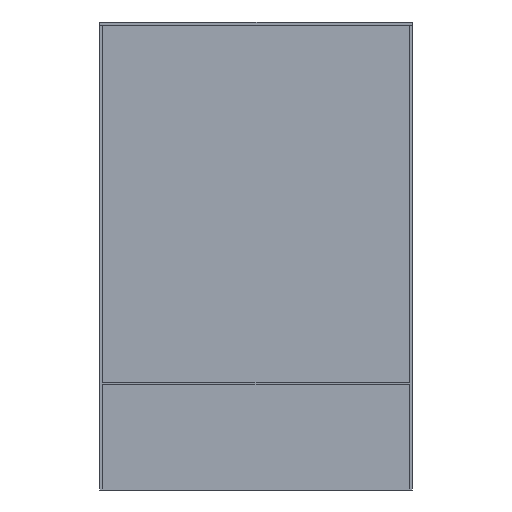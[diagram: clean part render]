
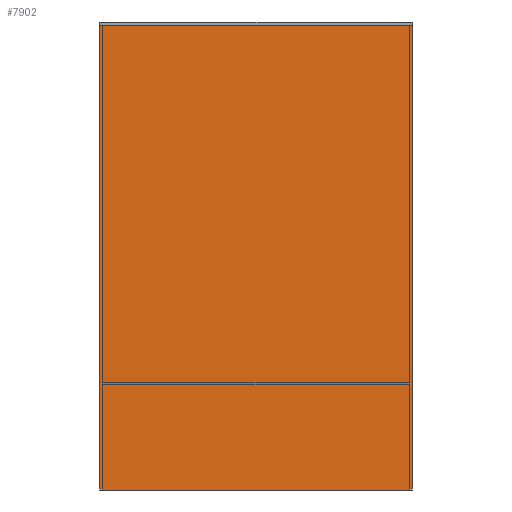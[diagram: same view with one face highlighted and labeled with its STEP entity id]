
A CAD part, left-side view. The second image highlights one B-rep face of the part: STEP entity #7902.
In plain terms, the highlighted planar face has unit normal (-1, 0, 0).
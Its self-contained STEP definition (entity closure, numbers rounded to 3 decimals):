
#356=FACE_OUTER_BOUND('',#825,.T.);
#825=EDGE_LOOP('',(#5698,#5699,#5700,#5701));
#1266=LINE('',#11813,#2148);
#1276=LINE('',#11832,#2158);
#1277=LINE('',#11835,#2159);
#1291=LINE('',#11860,#2173);
#2148=VECTOR('',#9552,304.8);
#2158=VECTOR('',#9564,304.8);
#2159=VECTOR('',#9567,304.8);
#2173=VECTOR('',#9593,304.8);
#3380=VERTEX_POINT('',#11811);
#3381=VERTEX_POINT('',#11812);
#3389=VERTEX_POINT('',#11830);
#3390=VERTEX_POINT('',#11834);
#4242=EDGE_CURVE('',#3380,#3381,#1266,.T.);
#4252=EDGE_CURVE('',#3381,#3389,#1276,.T.);
#4253=EDGE_CURVE('',#3390,#3380,#1277,.T.);
#4267=EDGE_CURVE('',#3390,#3389,#1291,.T.);
#5698=ORIENTED_EDGE('',*,*,#4242,.T.);
#5699=ORIENTED_EDGE('',*,*,#4252,.T.);
#5700=ORIENTED_EDGE('',*,*,#4267,.F.);
#5701=ORIENTED_EDGE('',*,*,#4253,.T.);
#7554=PLANE('',#8487);
#7902=ADVANCED_FACE('',(#356),#7554,.T.);
#8487=AXIS2_PLACEMENT_3D('',#11859,#9591,#9592);
#9552=DIRECTION('',(0.,1.,0.));
#9564=DIRECTION('',(0.,0.,-1.));
#9567=DIRECTION('',(0.,0.,1.));
#9591=DIRECTION('center_axis',(-1.,0.,0.));
#9592=DIRECTION('ref_axis',(0.,0.,-1.));
#9593=DIRECTION('',(0.,1.,0.));
#11811=CARTESIAN_POINT('',(-153.2,-53.75,-1.512));
#11812=CARTESIAN_POINT('',(-153.2,53.75,-1.512));
#11813=CARTESIAN_POINT('',(-153.2,-53.75,-1.512));
#11830=CARTESIAN_POINT('',(-153.2,53.75,-161.512));
#11832=CARTESIAN_POINT('',(-153.2,53.75,-1.512));
#11834=CARTESIAN_POINT('',(-153.2,-53.75,-161.512));
#11835=CARTESIAN_POINT('',(-153.2,-53.75,-161.512));
#11859=CARTESIAN_POINT('Origin',(-153.2,53.75,-1.512));
#11860=CARTESIAN_POINT('',(-153.2,-53.75,-161.512));
